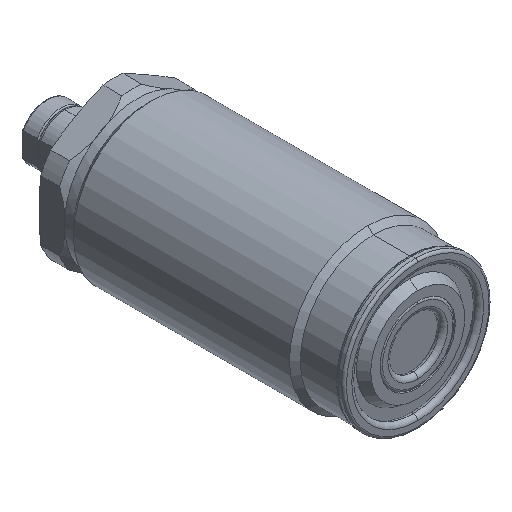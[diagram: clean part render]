
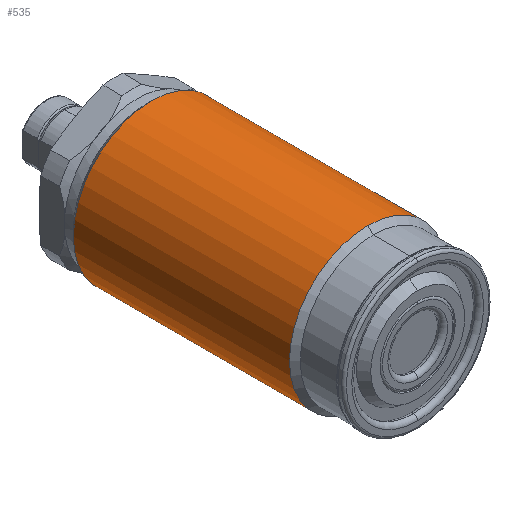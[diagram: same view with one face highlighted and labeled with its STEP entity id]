
A CAD part, isometric view. The second image highlights one B-rep face of the part: STEP entity #535.
In plain terms, the highlighted cylindrical face has radius 13 mm (diameter 26 mm), a full revolution.
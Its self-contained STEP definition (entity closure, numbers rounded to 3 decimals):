
#252=FACE_BOUND('',#819,.T.);
#253=FACE_BOUND('',#820,.T.);
#297=CYLINDRICAL_SURFACE('',#2248,13.);
#358=LINE('',#3629,#432);
#359=LINE('',#3634,#433);
#432=VECTOR('',#2799,1.);
#433=VECTOR('',#2802,1.);
#535=ADVANCED_FACE('',(#252,#253),#297,.T.);
#819=EDGE_LOOP('',(#1218));
#820=EDGE_LOOP('',(#1219,#1220,#1221,#1222,#1223,#1224));
#1218=ORIENTED_EDGE('',*,*,#1781,.T.);
#1219=ORIENTED_EDGE('',*,*,#1782,.T.);
#1220=ORIENTED_EDGE('',*,*,#1782,.F.);
#1221=ORIENTED_EDGE('',*,*,#1783,.T.);
#1222=ORIENTED_EDGE('',*,*,#1784,.T.);
#1223=ORIENTED_EDGE('',*,*,#1784,.F.);
#1224=ORIENTED_EDGE('',*,*,#1785,.T.);
#1548=VERTEX_POINT('',#3628);
#1549=VERTEX_POINT('',#3630);
#1550=VERTEX_POINT('',#3631);
#1551=VERTEX_POINT('',#3633);
#1552=VERTEX_POINT('',#3635);
#1781=EDGE_CURVE('',#1548,#1548,#1994,.T.);
#1782=EDGE_CURVE('',#1549,#1550,#358,.T.);
#1783=EDGE_CURVE('',#1549,#1551,#1995,.T.);
#1784=EDGE_CURVE('',#1551,#1552,#359,.T.);
#1785=EDGE_CURVE('',#1551,#1549,#1996,.T.);
#1994=CIRCLE('',#2245,13.);
#1995=CIRCLE('',#2246,13.);
#1996=CIRCLE('',#2247,13.);
#2245=AXIS2_PLACEMENT_3D('',#3627,#2797,#2798);
#2246=AXIS2_PLACEMENT_3D('',#3632,#2800,#2801);
#2247=AXIS2_PLACEMENT_3D('',#3636,#2803,#2804);
#2248=AXIS2_PLACEMENT_3D('',#3637,#2805,#2806);
#2797=DIRECTION('',(0.,-1.,0.));
#2798=DIRECTION('',(0.,0.,1.));
#2799=DIRECTION('',(0.,1.,0.));
#2800=DIRECTION('',(0.,1.,0.));
#2801=DIRECTION('',(0.,0.,1.));
#2802=DIRECTION('',(0.,1.,0.));
#2803=DIRECTION('',(0.,1.,0.));
#2804=DIRECTION('',(0.,0.,1.));
#2805=DIRECTION('',(0.,1.,0.));
#2806=DIRECTION('',(0.,0.,-1.));
#3627=CARTESIAN_POINT('',(0.,44.2,0.));
#3628=CARTESIAN_POINT('',(0.,44.2,13.));
#3629=CARTESIAN_POINT('',(0.,52.7,13.));
#3630=CARTESIAN_POINT('',(0.,8.3,13.));
#3631=CARTESIAN_POINT('',(0.,42.353,13.));
#3632=CARTESIAN_POINT('',(0.,8.3,0.));
#3633=CARTESIAN_POINT('',(0.,8.3,-13.));
#3634=CARTESIAN_POINT('',(0.,52.7,-13.));
#3635=CARTESIAN_POINT('',(0.,42.353,-13.));
#3636=CARTESIAN_POINT('',(0.,8.3,0.));
#3637=CARTESIAN_POINT('',(0.,52.7,0.));
